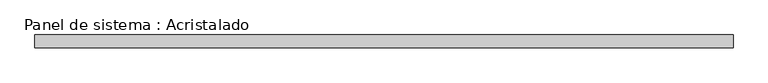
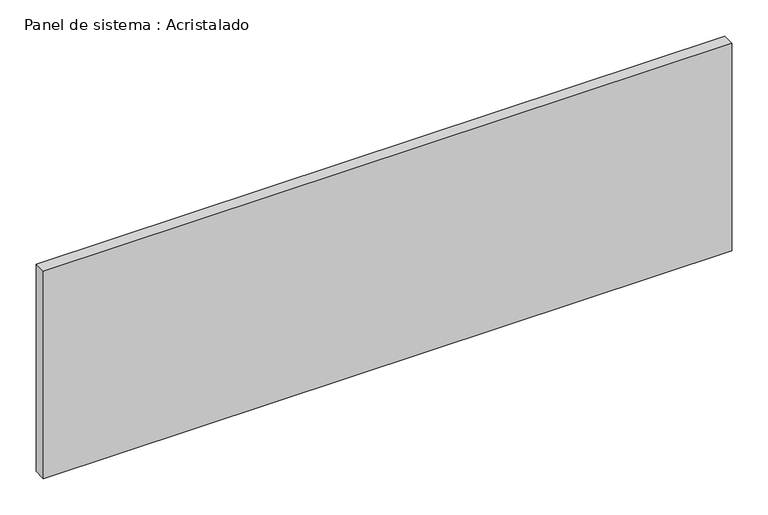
"""IFC4 building model written with IfcOpenShell, lengths in millimetres: plate geometry, Panel de sistema : Acristalado."""

from ifc_helpers import new_model, si_unit, origin, origin_with_axes, place, context, project, spatial, polyline, outline, extrude, source, transform, mapped, element, save


def panel_de_sistema_acristalado_fa6d9cca(model_context):
    return source(origin(), model_context, "Body", "SweptSolid", [
        extrude(outline(polyline([(550.0, -10.0), (-550.0, -10.0), (-550.0, 10.0), (550.0, 10.0), (550.0, -10.0)])), origin_with_axes(), (0.0, 0.0, 1.0), 350.0),
    ])


if __name__ == "__main__":
    model = new_model("IFC4")
    model_context = context("Model", 3, world=origin())
    ifc_project = project(units=[si_unit("LENGTHUNIT", "METRE", prefix="MILLI")], contexts=[model_context])
    site = spatial("IfcSite", under=ifc_project)
    building = spatial("IfcBuilding", under=site)
    placement = place(None, origin())
    panel_de_sistema_acristalado_shape = panel_de_sistema_acristalado_fa6d9cca(model_context)
    element("IfcPlate", 1, ObjectType="Panel de sistema : Acristalado", at=placement, inside=building, context=model_context, shape_type="MappedRepresentation", body=[
        mapped(panel_de_sistema_acristalado_shape, transform((0.0, 0.0, 0.0), x_axis=(1.0, 0.0, 0.0), y_axis=(0.0, 1.0, 0.0), z_axis=(0.0, 0.0, 1.0))),
    ])
    save(model, "model.ifc")
